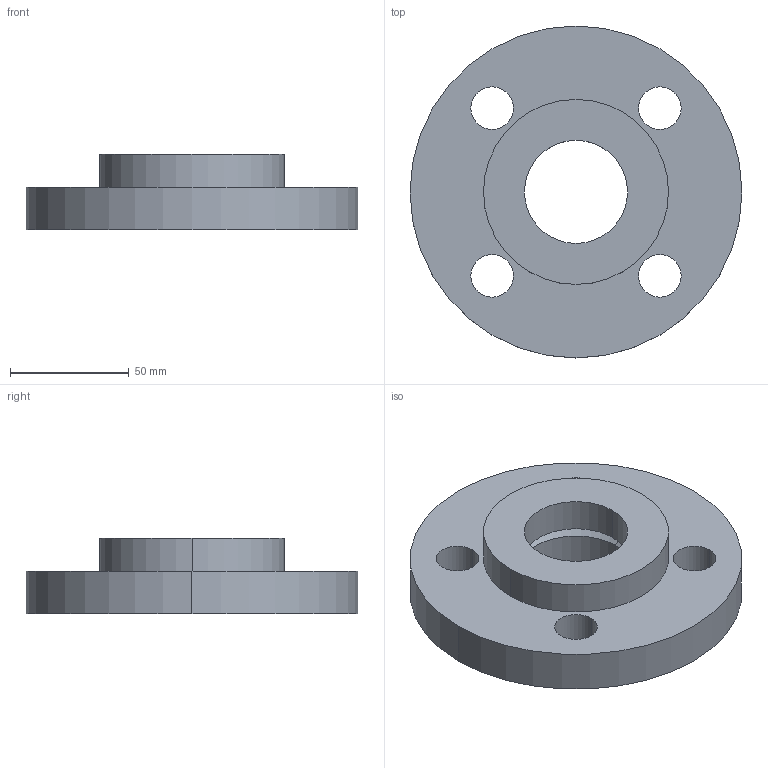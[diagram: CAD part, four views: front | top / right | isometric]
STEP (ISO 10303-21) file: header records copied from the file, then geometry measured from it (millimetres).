
FILE_DESCRIPTION (( 'STEP AP214' ), '1' );
FILE_NAME ('PN40 DN32 Type 02 in 32 - (Type A Face).STEP', '2018-12-30T00:06:09', ( '' ), ( '' ), 'SwSTEP 2.0', 'SolidWorks 2019', '' );
FILE_SCHEMA (( 'AUTOMOTIVE_DESIGN' ));
Length unit declared in the file: millimetre
Products named in the file (1): PN40 DN32 Type 02 in 32 - (Type A Face)
Bounding box: 140 x 140 x 32 mm (x, y, z)
Volume: 271651.8 mm3; surface area: 51456.4 mm2
Topology: 2 solids, 2 shells, 22 faces, 52 edges, 34 vertices
Faces by surface type: cylinder 16, plane 4, cone 2
Entity records: 721 total; most frequent: DIRECTION 132, CARTESIAN_POINT 109, ORIENTED_EDGE 104, AXIS2_PLACEMENT_3D 57, EDGE_CURVE 52, EDGE_LOOP 34, CIRCLE 34, VERTEX_POINT 34
